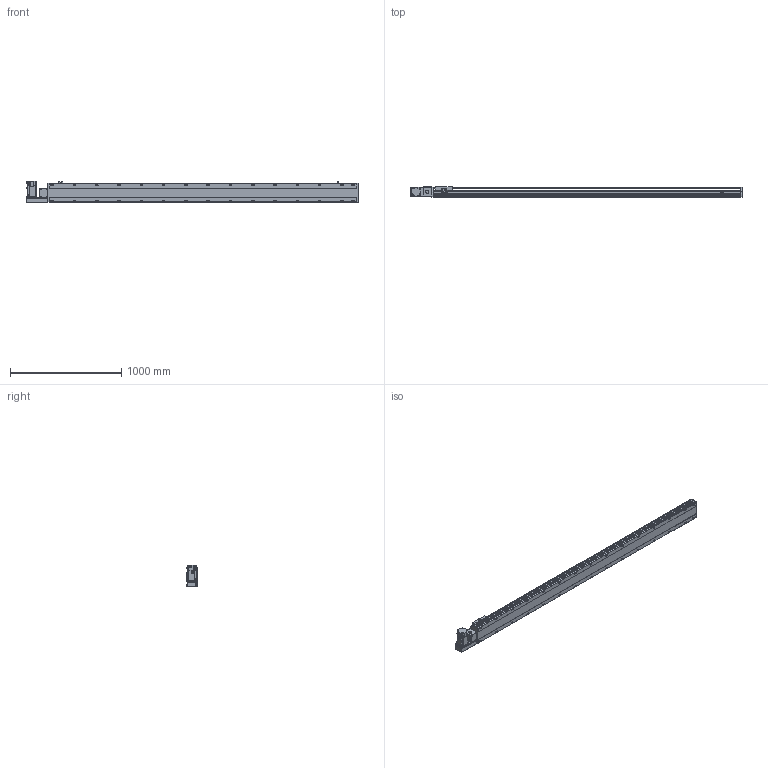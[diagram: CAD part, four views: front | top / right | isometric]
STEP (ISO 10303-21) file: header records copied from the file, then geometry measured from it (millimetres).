
FILE_DESCRIPTION( ( 'STEP AP214' ), '1' );
FILE_NAME( 'x:/temp/worker_1/temp/exporttempdir_5824_200_DexMY/format_0/PBS170-P40-S2500-L-T75-C1-N(0).stp', '2022-06-07T06:58:50', ( 'License CC BY-ND 4.0' ), ( 'CADENAS' ), ' ', 'PARTsolutions', ' ' );
FILE_SCHEMA( ( 'AUTOMOTIVE_DESIGN { 1 0 10303 214 1 1 1 1 }' ) );
Length unit declared in the file: millimetre
Products named in the file (7): PBS170-P40-S2500-L-T75-C1-N(0); _PBS170-S2500()_body; _PBS170T-L_motors; _T75-p1; _PBS170_sliser; _PBS170_plant; _PBS170_sensor
Assembly tree (8 placements, depth 2):
  PBS170-P40-S2500-L-T75-C1-N(0)
    _PBS170-S2500()_body
    _PBS170T-L_motors
    _T75-p1
    _PBS170_sliser
    _PBS170_plant
    _PBS170_sensor  x3
Bounding box: 2978 x 97 x 197.3 mm (x, y, z)
Volume: 21677293.2 mm3; surface area: 2730093.3 mm2
Topology: 8 solids, 8 shells, 1194 faces, 3155 edges, 2056 vertices
Faces by surface type: plane 729, cylinder 395, cone 60, sphere 8, torus 2
Full cylindrical faces by diameter (mm): 3.242 x4, 4 x2, 4.4 x4, 4.5 x6, 4.917 x4, 6 x9, 6.647 x38, 7 x2, 7.5 x4, 8 x8, 8.5 x30, 10 x4, 10.5 x30, 11 x2, 30 x2, 40 x1, 70 x1
Entity records: 44234 total; most frequent: CARTESIAN_POINT 7397, DIRECTION 5790, ORIENTED_EDGE 5448, EDGE_CURVE 2724, AXIS2_PLACEMENT_3D 2047, VERTEX_POINT 1898, LINE 1696, VECTOR 1696
